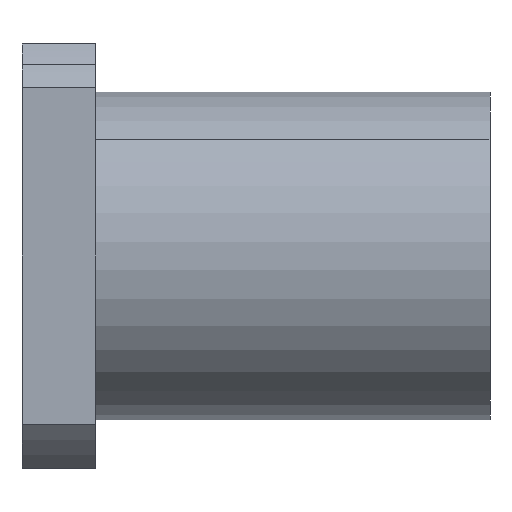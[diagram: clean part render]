
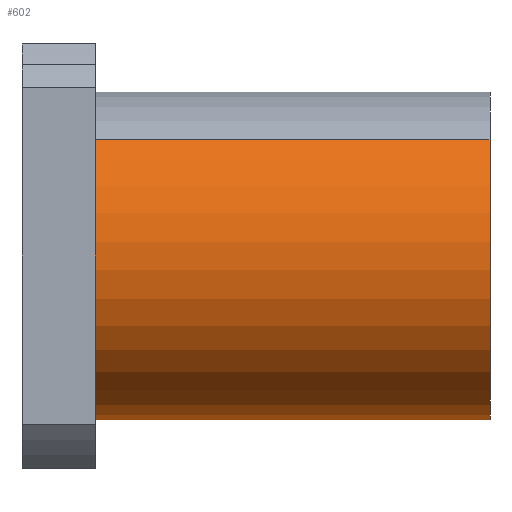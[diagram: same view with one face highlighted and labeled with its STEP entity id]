
A CAD part, front view. The second image highlights one B-rep face of the part: STEP entity #602.
In plain terms, the highlighted cylindrical face has radius 22.5 mm (diameter 45 mm), a partial arc.
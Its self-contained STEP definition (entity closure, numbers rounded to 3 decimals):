
#62 = EDGE_LOOP ( 'NONE', ( #121, #1010, #522, #827 ) ) ;
#86 = CARTESIAN_POINT ( 'NONE',  ( 10., -15.91, 15.91 ) ) ;
#95 = EDGE_CURVE ( 'NONE', #423, #468, #829, .T. ) ;
#121 = ORIENTED_EDGE ( 'NONE', *, *, #445, .F. ) ;
#125 = DIRECTION ( 'NONE',  ( 0., 0.707, -0.707 ) ) ;
#175 = VERTEX_POINT ( 'NONE', #637 ) ;
#192 = AXIS2_PLACEMENT_3D ( 'NONE', #1123, #740, #396 ) ;
#204 = EDGE_CURVE ( 'NONE', #468, #565, #786, .T. ) ;
#231 = FACE_OUTER_BOUND ( 'NONE', #62, .T. ) ;
#273 = CARTESIAN_POINT ( 'NONE',  ( 64., -15.91, 15.91 ) ) ;
#294 = CYLINDRICAL_SURFACE ( 'NONE', #192, 22.5 ) ;
#360 = CARTESIAN_POINT ( 'NONE',  ( 64., 0., 0. ) ) ;
#396 = DIRECTION ( 'NONE',  ( 0., 0.707, -0.707 ) ) ;
#423 = VERTEX_POINT ( 'NONE', #273 ) ;
#445 = EDGE_CURVE ( 'NONE', #423, #175, #598, .T. ) ;
#448 = AXIS2_PLACEMENT_3D ( 'NONE', #360, #534, #1094 ) ;
#468 = VERTEX_POINT ( 'NONE', #86 ) ;
#506 = VECTOR ( 'NONE', #1086, 1000. ) ;
#522 = ORIENTED_EDGE ( 'NONE', *, *, #204, .T. ) ;
#534 = DIRECTION ( 'NONE',  ( 1., 0., 0. ) ) ;
#557 = VECTOR ( 'NONE', #872, 1000. ) ;
#565 = VERTEX_POINT ( 'NONE', #1018 ) ;
#598 = CIRCLE ( 'NONE', #448, 22.5 ) ;
#602 = ADVANCED_FACE ( 'NONE', ( #231 ), #294, .T. ) ;
#617 = CARTESIAN_POINT ( 'NONE',  ( 64., 15.91, -15.91 ) ) ;
#637 = CARTESIAN_POINT ( 'NONE',  ( 64., 15.91, -15.91 ) ) ;
#740 = DIRECTION ( 'NONE',  ( -1., 0., 0. ) ) ;
#758 = EDGE_CURVE ( 'NONE', #175, #565, #798, .T. ) ;
#786 = CIRCLE ( 'NONE', #937, 22.5 ) ;
#798 = LINE ( 'NONE', #617, #557 ) ;
#818 = CARTESIAN_POINT ( 'NONE',  ( 64., -15.91, 15.91 ) ) ;
#827 = ORIENTED_EDGE ( 'NONE', *, *, #758, .F. ) ;
#829 = LINE ( 'NONE', #818, #506 ) ;
#872 = DIRECTION ( 'NONE',  ( -1., 0., 0. ) ) ;
#937 = AXIS2_PLACEMENT_3D ( 'NONE', #1114, #1119, #125 ) ;
#1010 = ORIENTED_EDGE ( 'NONE', *, *, #95, .T. ) ;
#1018 = CARTESIAN_POINT ( 'NONE',  ( 10., 15.91, -15.91 ) ) ;
#1086 = DIRECTION ( 'NONE',  ( -1., 0., 0. ) ) ;
#1094 = DIRECTION ( 'NONE',  ( 0., 0.707, -0.707 ) ) ;
#1114 = CARTESIAN_POINT ( 'NONE',  ( 10., 0., 0. ) ) ;
#1119 = DIRECTION ( 'NONE',  ( 1., 0., 0. ) ) ;
#1123 = CARTESIAN_POINT ( 'NONE',  ( 64., 0., 0. ) ) ;
